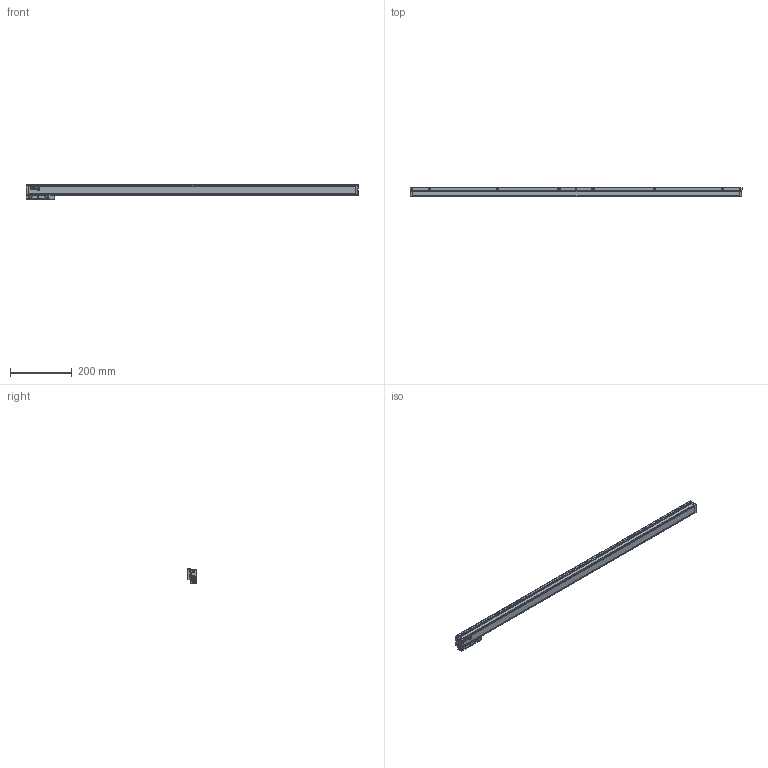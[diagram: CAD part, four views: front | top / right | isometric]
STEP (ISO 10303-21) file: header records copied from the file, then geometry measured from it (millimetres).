
FILE_DESCRIPTION(('Creo Elements/Direct Modeling STEP Export'),'2;1');
FILE_NAME('REGLA_SV3-970-B.stp','2020-10-30T13:40:23',(''),(''),'Creo Elements/Direct Modeling STEP processor for AP214 (Solid Model)','Creo Elements/Direct Modeling 19.0G 27-Nov-2017 (C) Parametric Technology GmbH','');
FILE_SCHEMA(('AUTOMOTIVE_DESIGN { 1 0 10303 214 1 1 1 1 }'));
Length unit declared in the file: millimetre
Products named in the file (4): PERFIL_SOPORTE_MECANIZADO_REGLA_SV3-970; CABEZA_RANURADA_REGLA_S3; PERFIL_REGLA_SV3-970; REGLA_SV3-970
Assembly tree (3 placements, depth 2):
  REGLA_SV3-970
    PERFIL_REGLA_SV3-970
    CABEZA_RANURADA_REGLA_S3
    PERFIL_SOPORTE_MECANIZADO_REGLA_SV3-970
Bounding box: 1075 x 28.3 x 48.1 mm (x, y, z)
Volume: 852237.3 mm3; surface area: 279460.4 mm2
Topology: 3 solids, 26 shells, 2896 faces, 9007 edges, 6219 vertices
Faces by surface type: plane 1770, cylinder 835, cone 226, bspline 33, torus 32
Entity records: 114893 total; most frequent: CARTESIAN_POINT 23630, ORIENTED_EDGE 17970, DIRECTION 14698, EDGE_CURVE 8983, VERTEX_POINT 6219, VECTOR 6046, LINE 6046, AXIS2_PLACEMENT_3D 4326
